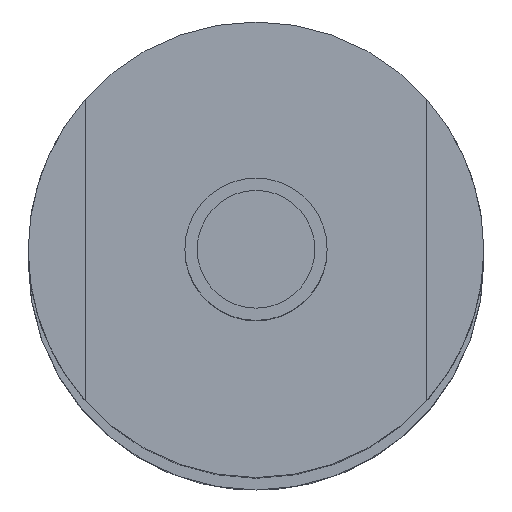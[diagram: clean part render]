
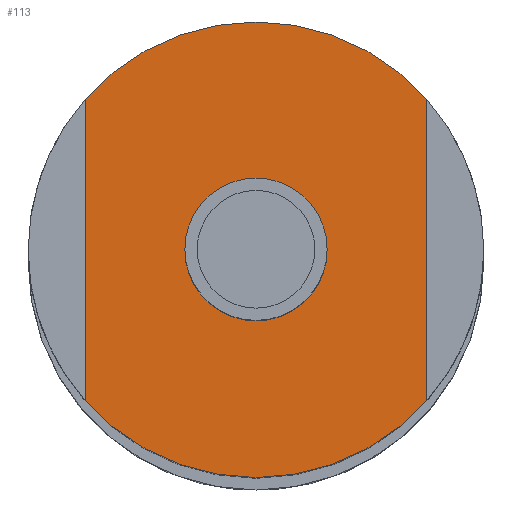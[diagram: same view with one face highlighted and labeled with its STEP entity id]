
A CAD part, top view. The second image highlights one B-rep face of the part: STEP entity #113.
In plain terms, the highlighted planar face has unit normal (0, 0, 1).
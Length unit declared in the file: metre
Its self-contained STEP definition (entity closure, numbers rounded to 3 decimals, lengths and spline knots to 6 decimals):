
#113=ADVANCED_FACE('17:304',(#222,#223),#224,.T.);
#222=FACE_BOUND('',#340,.T.);
#223=FACE_OUTER_BOUND('',#341,.T.);
#224=PLANE('',#342);
#340=EDGE_LOOP('',(#550,#551));
#341=EDGE_LOOP('',(#552,#553,#554,#555,#556,#557));
#342=AXIS2_PLACEMENT_3D('',#558,#559,#560);
#550=ORIENTED_EDGE('',*,*,#643,.T.);
#551=ORIENTED_EDGE('',*,*,#714,.T.);
#552=ORIENTED_EDGE('',*,*,#716,.F.);
#553=ORIENTED_EDGE('',*,*,#653,.F.);
#554=ORIENTED_EDGE('',*,*,#652,.F.);
#555=ORIENTED_EDGE('',*,*,#701,.T.);
#556=ORIENTED_EDGE('',*,*,#708,.F.);
#557=ORIENTED_EDGE('',*,*,#707,.F.);
#558=CARTESIAN_POINT('',(0.,0.,0.179));
#559=DIRECTION('',(0.0,0.0,1.0));
#560=DIRECTION('',(1.0,0.0,0.0));
#643=EDGE_CURVE('19:2123',#759,#756,#760,.F.);
#652=EDGE_CURVE('17:354',#774,#776,#777,.F.);
#653=EDGE_CURVE('17:345',#776,#778,#779,.F.);
#701=EDGE_CURVE('17:844',#774,#849,#850,.T.);
#707=EDGE_CURVE('17:351',#857,#859,#860,.F.);
#708=EDGE_CURVE('17:342',#859,#849,#861,.F.);
#714=EDGE_CURVE('',#756,#759,#867,.F.);
#716=EDGE_CURVE('17:790',#778,#857,#869,.F.);
#756=VERTEX_POINT('',#933);
#759=VERTEX_POINT('',#937);
#760=CIRCLE('',#938,0.0025);
#774=VERTEX_POINT('',#955);
#776=VERTEX_POINT('',#958);
#777=CIRCLE('',#959,0.008);
#778=VERTEX_POINT('',#960);
#779=CIRCLE('',#961,0.008);
#849=VERTEX_POINT('',#1046);
#850=LINE('',#1047,#1048);
#857=VERTEX_POINT('',#1057);
#859=VERTEX_POINT('',#1060);
#860=CIRCLE('',#1061,0.008);
#861=CIRCLE('',#1062,0.008);
#867=CIRCLE('',#1068,0.0025);
#869=LINE('',#1070,#1071);
#933=CARTESIAN_POINT('',(0.00239,0.000133,0.179));
#937=CARTESIAN_POINT('',(-0.00261,0.000133,0.179));
#938=AXIS2_PLACEMENT_3D('',#1144,#1145,#1146);
#955=CARTESIAN_POINT('',(-0.00611,0.005425,0.179));
#958=CARTESIAN_POINT('',(-0.00011,0.008133,0.179));
#959=AXIS2_PLACEMENT_3D('',#1160,#1161,#1162);
#960=CARTESIAN_POINT('',(0.00589,0.005425,0.179));
#961=AXIS2_PLACEMENT_3D('',#1163,#1164,#1165);
#1046=CARTESIAN_POINT('',(-0.00611,-0.005158,0.179));
#1047=CARTESIAN_POINT('',(-0.00611,0.000067,0.179));
#1048=VECTOR('',#1235,1.0);
#1057=CARTESIAN_POINT('',(0.00589,-0.005158,0.179));
#1060=CARTESIAN_POINT('',(-0.00011,-0.007867,0.179));
#1061=AXIS2_PLACEMENT_3D('',#1242,#1243,#1244);
#1062=AXIS2_PLACEMENT_3D('',#1245,#1246,#1247);
#1068=AXIS2_PLACEMENT_3D('',#1257,#1258,#1259);
#1070=CARTESIAN_POINT('',(0.00589,0.000067,0.179));
#1071=VECTOR('',#1260,1.0);
#1144=CARTESIAN_POINT('',(-0.00011,0.000133,0.179));
#1145=DIRECTION('',(0.0,0.0,1.0));
#1146=DIRECTION('',(1.0,0.0,-0.0));
#1160=CARTESIAN_POINT('',(-0.00011,0.000133,0.179));
#1161=DIRECTION('',(0.0,0.0,1.0));
#1162=DIRECTION('',(1.0,0.0,0.0));
#1163=CARTESIAN_POINT('',(-0.00011,0.000133,0.179));
#1164=DIRECTION('',(0.0,0.0,1.0));
#1165=DIRECTION('',(1.0,0.0,0.0));
#1235=DIRECTION('',(0.,-1.0,0.0));
#1242=CARTESIAN_POINT('',(-0.00011,0.000133,0.179));
#1243=DIRECTION('',(0.0,0.0,1.0));
#1244=DIRECTION('',(1.0,0.0,0.0));
#1245=CARTESIAN_POINT('',(-0.00011,0.000133,0.179));
#1246=DIRECTION('',(0.0,0.0,1.0));
#1247=DIRECTION('',(1.0,0.0,0.0));
#1257=CARTESIAN_POINT('',(-0.00011,0.000133,0.179));
#1258=DIRECTION('',(0.0,0.0,1.0));
#1259=DIRECTION('',(1.0,0.0,-0.0));
#1260=DIRECTION('',(0.,1.0,0.0));
